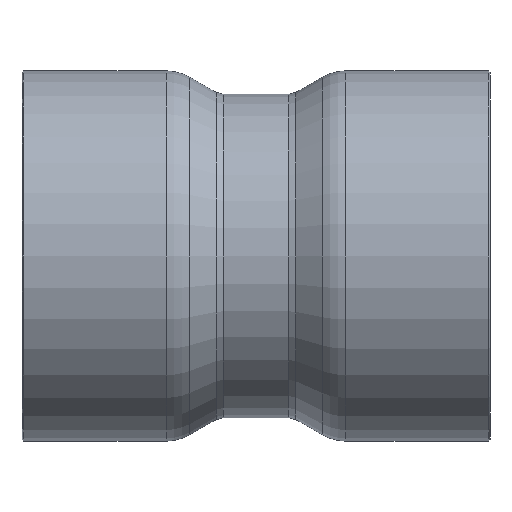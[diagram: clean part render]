
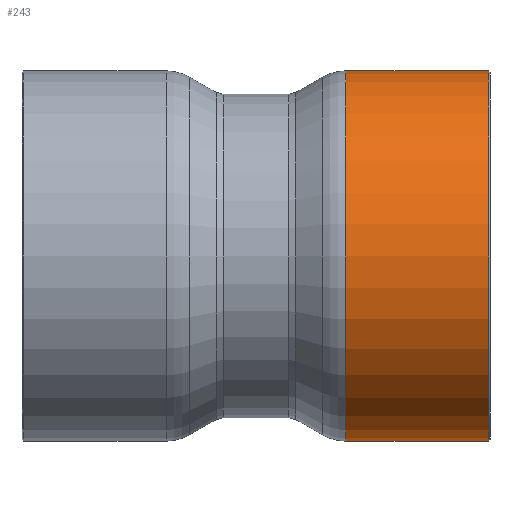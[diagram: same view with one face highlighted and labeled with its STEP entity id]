
A CAD part, front view. The second image highlights one B-rep face of the part: STEP entity #243.
In plain terms, the highlighted cylindrical face has radius 38.167 mm (diameter 76.335 mm), a full revolution.
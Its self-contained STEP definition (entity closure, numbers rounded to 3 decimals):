
#209=CARTESIAN_POINT('',(47.95,38.168,0.));
#210=VERTEX_POINT('',#209);
#211=CARTESIAN_POINT('',(47.95,0.0,0.0));
#212=DIRECTION('',(1.0,0.0,0.0));
#213=DIRECTION('',(0.0,-1.0,0.0));
#214=AXIS2_PLACEMENT_3D('',#211,#212,#213);
#215=CIRCLE('',#214,38.168);
#216=EDGE_CURVE('',#210,#210,#215,.T.);
#224=CARTESIAN_POINT('',(33.375,0.0,0.0));
#225=DIRECTION('',(1.0,0.0,0.0));
#226=DIRECTION('',(0.0,1.0,0.0));
#227=AXIS2_PLACEMENT_3D('',#224,#225,#226);
#228=CYLINDRICAL_SURFACE('',#227,38.168);
#229=CARTESIAN_POINT('',(18.5,38.168,0.0));
#230=VERTEX_POINT('',#229);
#231=CARTESIAN_POINT('',(18.5,0.0,0.0));
#232=DIRECTION('',(1.0,0.0,0.0));
#233=DIRECTION('',(0.0,1.0,0.0));
#234=AXIS2_PLACEMENT_3D('',#231,#232,#233);
#235=CIRCLE('',#234,38.168);
#236=EDGE_CURVE('',#230,#230,#235,.T.);
#237=ORIENTED_EDGE('',*,*,#236,.T.);
#238=EDGE_LOOP('',(#237));
#239=FACE_OUTER_BOUND('',#238,.T.);
#240=ORIENTED_EDGE('',*,*,#216,.F.);
#241=EDGE_LOOP('',(#240));
#242=FACE_BOUND('',#241,.T.);
#243=ADVANCED_FACE('',(#239,#242),#228,.T.);
